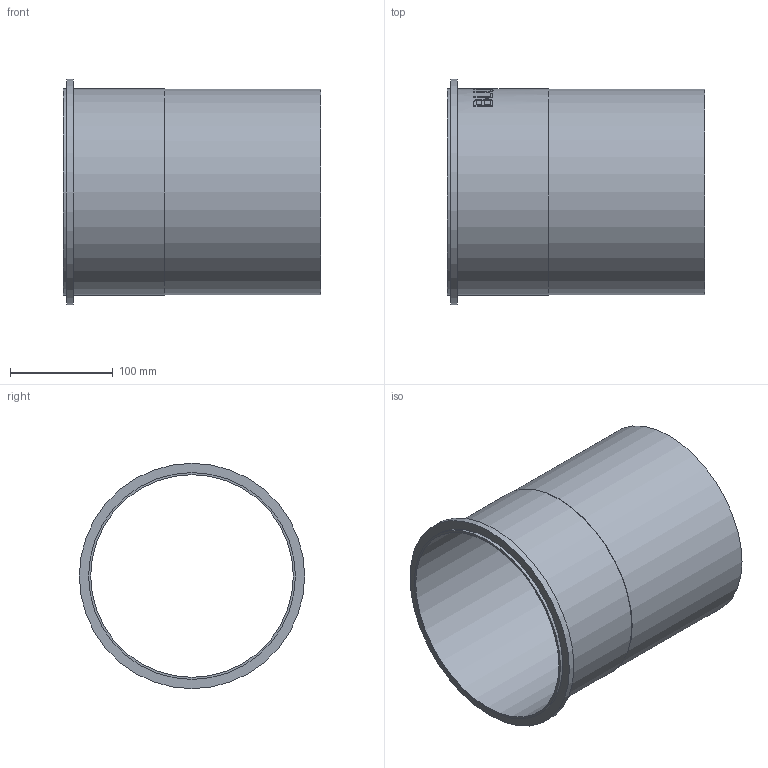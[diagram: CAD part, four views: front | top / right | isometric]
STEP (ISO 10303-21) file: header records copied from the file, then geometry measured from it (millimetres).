
FILE_DESCRIPTION((''),'2;1');
FILE_NAME('I:\WATTS\3D_CAD\3D_CAD_Models\Blucher_Drains\P_StraightPipe\WebsiteFiles\3D\STEP\P8-0.8-316.stp','2009-12-03T08:58:47',('menesek'),(''),'Autodesk Inventor 2010','Autodesk Inventor 2010','');
FILE_SCHEMA(('AUTOMOTIVE_DESIGN { 1 0 10303 214 1 1 1 1 }'));
Length unit declared in the file: inch
Products named in the file (1): P8-0.8-316
Bounding box: 250 x 218.95 x 218.95 mm (x, y, z)
Volume: 306534.2 mm3; surface area: 326880.1 mm2
Topology: 1 solids, 1 shells, 109 faces, 285 edges, 190 vertices
Faces by surface type: plane 59, bspline 34, cylinder 16
Full cylindrical faces by diameter (mm): 196.85 x1, 199.898 x1, 200.914 x2, 218.948 x1
Entity records: 14215 total; most frequent: CARTESIAN_POINT 11837, ORIENTED_EDGE 548, DIRECTION 356, EDGE_CURVE 274, VERTEX_POINT 186, EDGE_LOOP 128, AXIS2_PLACEMENT_3D 120, VECTOR 116
